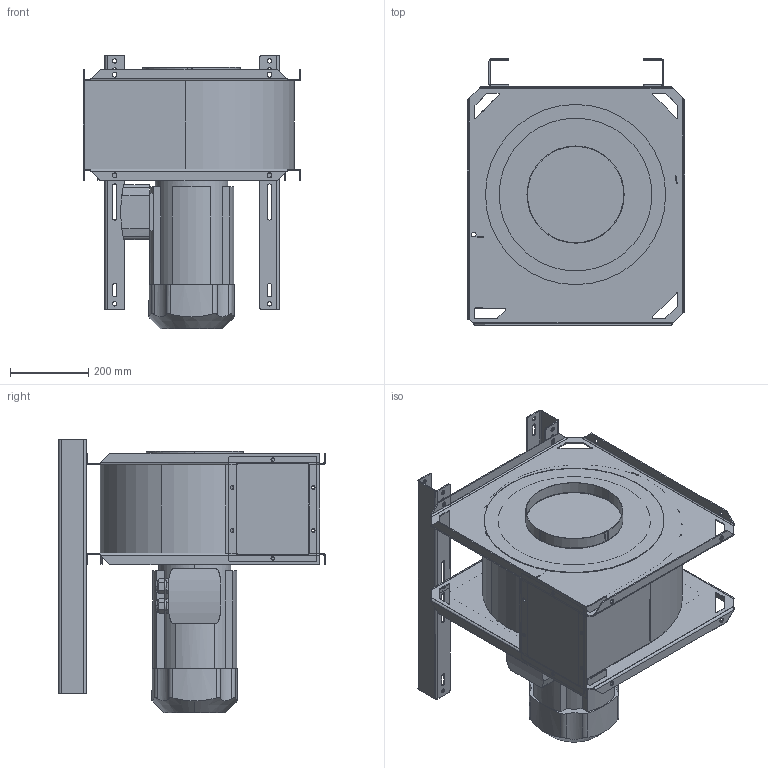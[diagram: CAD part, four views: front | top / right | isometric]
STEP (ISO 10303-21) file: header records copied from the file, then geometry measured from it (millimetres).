
FILE_DESCRIPTION((''),'2;1');
FILE_NAME('FTE_400_LG90','2022-10-13T14:50:23',('Tomas Bellgran'),(''),'CREO PARAMETRIC BY PTC INC, 2018260','CREO PARAMETRIC BY PTC INC, 2018260','');
FILE_SCHEMA(('AUTOMOTIVE_DESIGN { 1 0 10303 214 1 1 1 1 }'));
Length unit declared in the file: millimetre
Products named in the file (13): 115656; 115658; 115659; 115653; 115692; 115704; 115706; 115700; 4A3_112M_B5_L; 120071; 107961; 116969; FTE_400_LG90
Assembly tree (13 placements, depth 3):
  FTE_400_LG90
    115653
      115656
      115658
      115659
    115692
    115700
      115704
      115706
    120071
      4A3_112M_B5_L
    107961  x2
    116969
Bounding box: 555.8 x 680 x 699 mm (x, y, z)
Volume: 19354528.8 mm3; surface area: 3839250.2 mm2
Topology: 11 solids, 11 shells, 704 faces, 1804 edges, 1134 vertices
Faces by surface type: plane 399, cylinder 267, bspline 32, cone 6
Entity records: 31266 total; most frequent: CARTESIAN_POINT 5486, ORIENTED_EDGE 3256, DIRECTION 3238, PRESENTATION_STYLE_ASSIGNMENT 2276, STYLED_ITEM 2276, CURVE_STYLE 1628, EDGE_CURVE 1628, VECTOR 1098
